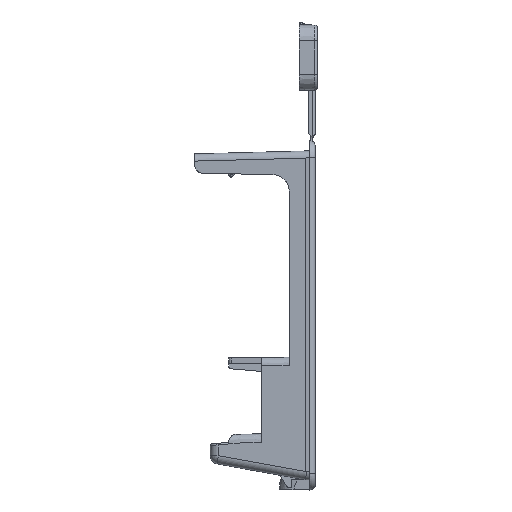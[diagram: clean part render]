
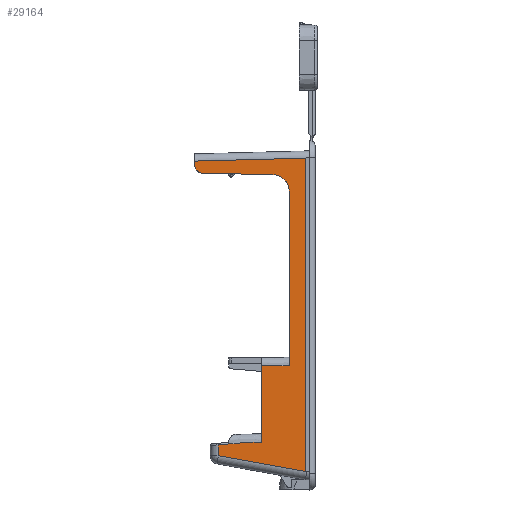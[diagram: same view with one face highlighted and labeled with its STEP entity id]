
A CAD part, left-side view. The second image highlights one B-rep face of the part: STEP entity #29164.
In plain terms, the highlighted planar face has unit normal (-1, 0.026, 0).
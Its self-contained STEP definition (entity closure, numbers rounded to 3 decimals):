
#14 = CARTESIAN_POINT ( 'NONE',  ( -27.888, 21.706, 27.086 ) ) ;
#255 = VERTEX_POINT ( 'NONE', #32592 ) ;
#401 = CARTESIAN_POINT ( 'NONE',  ( -28.048, 15.585, -23.141 ) ) ;
#721 = B_SPLINE_CURVE_WITH_KNOTS ( 'NONE', 3,
 ( #18598, #24417, #12761, #33442 ),
 .UNSPECIFIED., .F., .F.,
 ( 4, 4 ),
 ( 0., 1. ),
 .UNSPECIFIED. ) ;
#1820 = CARTESIAN_POINT ( 'NONE',  ( -28.301, 5.921, 25.336 ) ) ;
#1867 = CARTESIAN_POINT ( 'NONE',  ( -28.202, 9.706, -22.812 ) ) ;
#2092 = VECTOR ( 'NONE', #34314, 1000. ) ;
#2474 = EDGE_CURVE ( 'NONE', #21619, #7294, #30827, .T. ) ;
#2490 = ORIENTED_EDGE ( 'NONE', *, *, #5374, .F. ) ;
#2649 = VERTEX_POINT ( 'NONE', #25927 ) ;
#2694 = VECTOR ( 'NONE', #10230, 1000. ) ;
#3733 = EDGE_CURVE ( 'NONE', #23307, #31536, #721, .T. ) ;
#4121 = ORIENTED_EDGE ( 'NONE', *, *, #14079, .T. ) ;
#4362 = DIRECTION ( 'NONE',  ( 0.026, 0.999, -0.026 ) ) ;
#4996 = CARTESIAN_POINT ( 'NONE',  ( -27.926, 20.232, 25.586 ) ) ;
#5098 = ORIENTED_EDGE ( 'NONE', *, *, #17533, .T. ) ;
#5370 = VECTOR ( 'NONE', #33409, 1000. ) ;
#5374 = EDGE_CURVE ( 'NONE', #255, #25126, #20046, .T. ) ;
#5656 = CARTESIAN_POINT ( 'NONE',  ( -27.888, 21.706, 26.219 ) ) ;
#5737 = CARTESIAN_POINT ( 'NONE',  ( -28.246, 8.04, -9.043 ) ) ;
#5767 = CARTESIAN_POINT ( 'NONE',  ( -27.888, 21.706, 0. ) ) ;
#6756 = CARTESIAN_POINT ( 'NONE',  ( -28.202, 9.706, -22.812 ) ) ;
#7294 = VERTEX_POINT ( 'NONE', #11853 ) ;
#7573 = CARTESIAN_POINT ( 'NONE',  ( -27.999, 17.445, -26.5 ) ) ;
#9140 = EDGE_LOOP ( 'NONE', ( #10934, #12573, #4121, #27867, #31672, #17599, #36784, #2490, #5098, #32637, #14347, #30448, #14811, #13440 ) ) ;
#9610 = EDGE_CURVE ( 'NONE', #36739, #31536, #16735, .T. ) ;
#9917 = LINE ( 'NONE', #33037, #13541 ) ;
#9928 = B_SPLINE_CURVE_WITH_KNOTS ( 'NONE', 3,
 ( #20019, #31486, #5737, #17210 ),
 .UNSPECIFIED., .F., .F.,
 ( 4, 4 ),
 ( 0., 1. ),
 .UNSPECIFIED. ) ;
#10089 = VERTEX_POINT ( 'NONE', #15381 ) ;
#10230 = DIRECTION ( 'NONE',  ( 0., 0., -1. ) ) ;
#10345 = EDGE_CURVE ( 'NONE', #7294, #25551, #9928, .T. ) ;
#10738 = CARTESIAN_POINT ( 'NONE',  ( -28.333, 4.706, 0. ) ) ;
#10934 = ORIENTED_EDGE ( 'NONE', *, *, #9610, .T. ) ;
#11341 = CARTESIAN_POINT ( 'NONE',  ( -28.412, 1.706, 28.312 ) ) ;
#11497 = CARTESIAN_POINT ( 'NONE',  ( -27.904, 21.099, 25.601 ) ) ;
#11853 = CARTESIAN_POINT ( 'NONE',  ( -28.333, 4.706, -9.014 ) ) ;
#12573 = ORIENTED_EDGE ( 'NONE', *, *, #3733, .F. ) ;
#12761 = CARTESIAN_POINT ( 'NONE',  ( -28.105, 13.433, -22.953 ) ) ;
#13285 = CARTESIAN_POINT ( 'NONE',  ( -28.333, 4.706, 22.367 ) ) ;
#13440 = ORIENTED_EDGE ( 'NONE', *, *, #35910, .T. ) ;
#13541 = VECTOR ( 'NONE', #24201, 1000. ) ;
#13582 =( BOUNDED_CURVE ( )  B_SPLINE_CURVE ( 3, ( #14, #5656, #11497, #17132 ),
 .UNSPECIFIED., .F., .F. ) 
 B_SPLINE_CURVE_WITH_KNOTS ( ( 4, 4 ),
 ( 0., 1.553 ),
 .UNSPECIFIED. ) 
 CURVE ( )  GEOMETRIC_REPRESENTATION_ITEM ( )  RATIONAL_B_SPLINE_CURVE ( ( 1., 0.809, 0.809, 1. ) ) 
 REPRESENTATION_ITEM ( '' )  );
#13940 = VERTEX_POINT ( 'NONE', #19520 ) ;
#14079 = EDGE_CURVE ( 'NONE', #23307, #18853, #9917, .T. ) ;
#14347 = ORIENTED_EDGE ( 'NONE', *, *, #19321, .T. ) ;
#14811 = ORIENTED_EDGE ( 'NONE', *, *, #10345, .T. ) ;
#15161 = EDGE_CURVE ( 'NONE', #2649, #13940, #32319, .T. ) ;
#15381 = CARTESIAN_POINT ( 'NONE',  ( -28.256, 7.654, 25.366 ) ) ;
#16227 = CARTESIAN_POINT ( 'NONE',  ( -28.392, 2.447, 28.293 ) ) ;
#16735 = B_SPLINE_CURVE_WITH_KNOTS ( 'NONE', 3,
 ( #6756, #20308, #32135, #26314 ),
 .UNSPECIFIED., .F., .F.,
 ( 4, 4 ),
 ( 0., 0.382 ),
 .UNSPECIFIED. ) ;
#17132 = CARTESIAN_POINT ( 'NONE',  ( -27.926, 20.232, 25.586 ) ) ;
#17210 = CARTESIAN_POINT ( 'NONE',  ( -28.202, 9.706, -9.058 ) ) ;
#17410 = CARTESIAN_POINT ( 'NONE',  ( -27.888, 21.706, 27.788 ) ) ;
#17533 = EDGE_CURVE ( 'NONE', #255, #28037, #13582, .T. ) ;
#17599 = ORIENTED_EDGE ( 'NONE', *, *, #26808, .F. ) ;
#18022 = DIRECTION ( 'NONE',  ( -0.026, -0.984, -0.178 ) ) ;
#18289 = LINE ( 'NONE', #7573, #2694 ) ;
#18598 = CARTESIAN_POINT ( 'NONE',  ( -28.048, 15.585, -23.141 ) ) ;
#18663 = LINE ( 'NONE', #16227, #28602 ) ;
#18853 = VERTEX_POINT ( 'NONE', #26560 ) ;
#19140 = DIRECTION ( 'NONE',  ( -0.026, -1., 0. ) ) ;
#19321 = EDGE_CURVE ( 'NONE', #10089, #21619, #20050, .T. ) ;
#19520 = CARTESIAN_POINT ( 'NONE',  ( -28.412, 1.706, -28.094 ) ) ;
#20019 = CARTESIAN_POINT ( 'NONE',  ( -28.333, 4.706, -9.014 ) ) ;
#20046 = LINE ( 'NONE', #5767, #29895 ) ;
#20050 =( BOUNDED_CURVE ( )  B_SPLINE_CURVE ( 3, ( #22298, #1820, #30386, #13285 ),
 .UNSPECIFIED., .F., .F. ) 
 B_SPLINE_CURVE_WITH_KNOTS ( ( 4, 4 ),
 ( 1.588, 3.142 ),
 .UNSPECIFIED. ) 
 CURVE ( )  GEOMETRIC_REPRESENTATION_ITEM ( )  RATIONAL_B_SPLINE_CURVE ( ( 1., 0.809, 0.809, 1. ) ) 
 REPRESENTATION_ITEM ( '' )  );
#20237 = EDGE_CURVE ( 'NONE', #28037, #10089, #36410, .T. ) ;
#20308 = CARTESIAN_POINT ( 'NONE',  ( -28.179, 10.59, -22.828 ) ) ;
#21534 = CARTESIAN_POINT ( 'NONE',  ( -28.202, 9.706, -9.058 ) ) ;
#21619 = VERTEX_POINT ( 'NONE', #24339 ) ;
#21932 = CARTESIAN_POINT ( 'NONE',  ( -28.423, 1.266, 25.255 ) ) ;
#22298 = CARTESIAN_POINT ( 'NONE',  ( -28.256, 7.654, 25.366 ) ) ;
#22323 = DIRECTION ( 'NONE',  ( -1., 0.026, 0. ) ) ;
#22491 = PLANE ( 'NONE',  #25623 ) ;
#23307 = VERTEX_POINT ( 'NONE', #401 ) ;
#23608 = DIRECTION ( 'NONE',  ( 0., 0., 1. ) ) ;
#24201 = DIRECTION ( 'NONE',  ( 0.026, 0.996, -0.087 ) ) ;
#24339 = CARTESIAN_POINT ( 'NONE',  ( -28.333, 4.706, 22.367 ) ) ;
#24366 = LINE ( 'NONE', #34694, #2092 ) ;
#24417 = CARTESIAN_POINT ( 'NONE',  ( -28.076, 14.509, -23.047 ) ) ;
#25126 = VERTEX_POINT ( 'NONE', #17410 ) ;
#25551 = VERTEX_POINT ( 'NONE', #21534 ) ;
#25623 = AXIS2_PLACEMENT_3D ( 'NONE', #33974, #22323, #19140 ) ;
#25797 = EDGE_CURVE ( 'NONE', #18853, #2649, #18289, .T. ) ;
#25927 = CARTESIAN_POINT ( 'NONE',  ( -27.999, 17.445, -25.247 ) ) ;
#26314 = CARTESIAN_POINT ( 'NONE',  ( -28.133, 12.357, -22.859 ) ) ;
#26399 = CARTESIAN_POINT ( 'NONE',  ( -28.412, 1.706, 29.623 ) ) ;
#26560 = CARTESIAN_POINT ( 'NONE',  ( -27.999, 17.445, -23.304 ) ) ;
#26774 = LINE ( 'NONE', #26399, #32116 ) ;
#26808 = EDGE_CURVE ( 'NONE', #31173, #13940, #26774, .T. ) ;
#27625 = VECTOR ( 'NONE', #18022, 1000. ) ;
#27867 = ORIENTED_EDGE ( 'NONE', *, *, #25797, .T. ) ;
#28037 = VERTEX_POINT ( 'NONE', #4996 ) ;
#28563 = DIRECTION ( 'NONE',  ( 0., 0., -1. ) ) ;
#28602 = VECTOR ( 'NONE', #4362, 1000. ) ;
#29164 = ADVANCED_FACE ( 'NONE', ( #30962 ), #22491, .T. ) ;
#29216 = DIRECTION ( 'NONE',  ( 0., 0., -1. ) ) ;
#29895 = VECTOR ( 'NONE', #23608, 1000. ) ;
#30017 = CARTESIAN_POINT ( 'NONE',  ( -28.133, 12.357, -22.859 ) ) ;
#30386 = CARTESIAN_POINT ( 'NONE',  ( -28.333, 4.706, 24.1 ) ) ;
#30448 = ORIENTED_EDGE ( 'NONE', *, *, #2474, .T. ) ;
#30827 = LINE ( 'NONE', #10738, #36467 ) ;
#30962 = FACE_OUTER_BOUND ( 'NONE', #9140, .T. ) ;
#31173 = VERTEX_POINT ( 'NONE', #11341 ) ;
#31486 = CARTESIAN_POINT ( 'NONE',  ( -28.289, 6.373, -9.029 ) ) ;
#31536 = VERTEX_POINT ( 'NONE', #30017 ) ;
#31672 = ORIENTED_EDGE ( 'NONE', *, *, #15161, .T. ) ;
#32116 = VECTOR ( 'NONE', #29216, 1000. ) ;
#32135 = CARTESIAN_POINT ( 'NONE',  ( -28.156, 11.473, -22.843 ) ) ;
#32319 = LINE ( 'NONE', #34570, #27625 ) ;
#32592 = CARTESIAN_POINT ( 'NONE',  ( -27.888, 21.706, 27.086 ) ) ;
#32637 = ORIENTED_EDGE ( 'NONE', *, *, #20237, .T. ) ;
#33037 = CARTESIAN_POINT ( 'NONE',  ( -28.461, -0.196, -21.76 ) ) ;
#33409 = DIRECTION ( 'NONE',  ( -0.026, -1., -0.017 ) ) ;
#33442 = CARTESIAN_POINT ( 'NONE',  ( -28.133, 12.357, -22.859 ) ) ;
#33974 = CARTESIAN_POINT ( 'NONE',  ( -28.412, 1.706, 0. ) ) ;
#34040 = EDGE_CURVE ( 'NONE', #31173, #25126, #18663, .T. ) ;
#34314 = DIRECTION ( 'NONE',  ( 0., 0., -1. ) ) ;
#34570 = CARTESIAN_POINT ( 'NONE',  ( -28.419, 1.441, -28.142 ) ) ;
#34694 = CARTESIAN_POINT ( 'NONE',  ( -28.202, 9.706, 0. ) ) ;
#35910 = EDGE_CURVE ( 'NONE', #25551, #36739, #24366, .T. ) ;
#36410 = LINE ( 'NONE', #21932, #5370 ) ;
#36467 = VECTOR ( 'NONE', #28563, 1000. ) ;
#36739 = VERTEX_POINT ( 'NONE', #1867 ) ;
#36784 = ORIENTED_EDGE ( 'NONE', *, *, #34040, .T. ) ;
